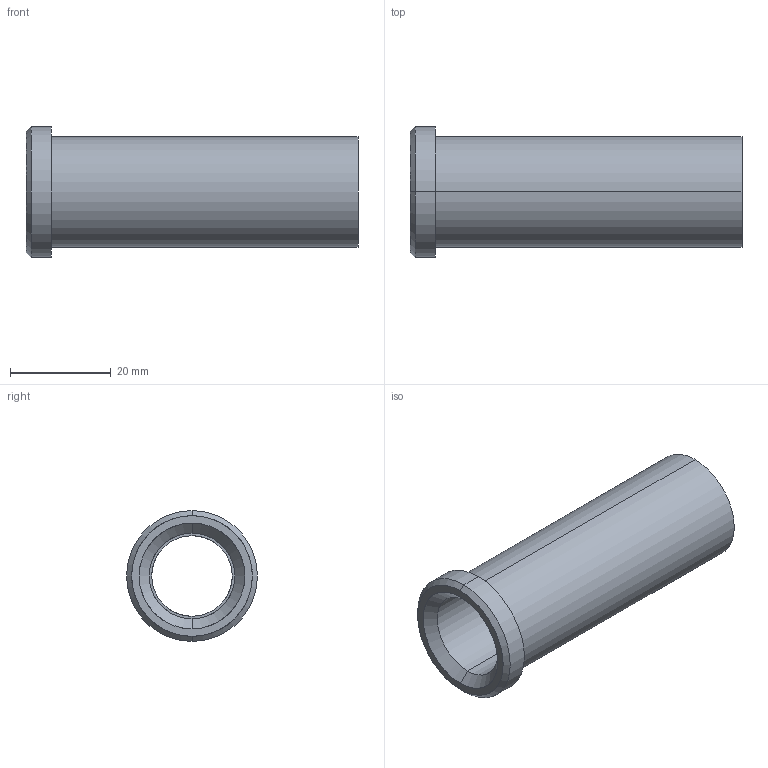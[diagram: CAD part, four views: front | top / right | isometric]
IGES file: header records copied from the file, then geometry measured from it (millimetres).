
Start section: START RECORD GO HERE.
Global section: file name: 353-16X66.igs; native system: DASSAULT SYSTEMES CATIA V5 R20 - www.3ds.com; preprocessor: CATIA Version 5 Release 20 ; author: Utente; organization: NB04-ASUS; date: 20210504.201626; units: millimetre
Bounding box: 66 x 26 x 26 mm (x, y, z)
Surface area: 8580.9 mm2 (no closed solid volume)
Topology: 0 solids, 0 shells, 18 faces, 116 edges, 116 vertices
Faces by surface type: revolution 14, plane 4
